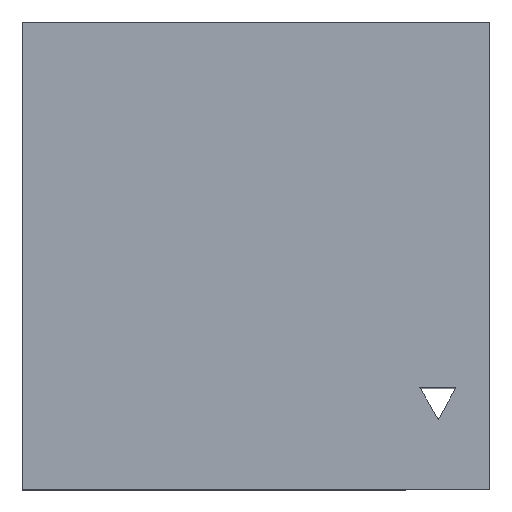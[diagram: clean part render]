
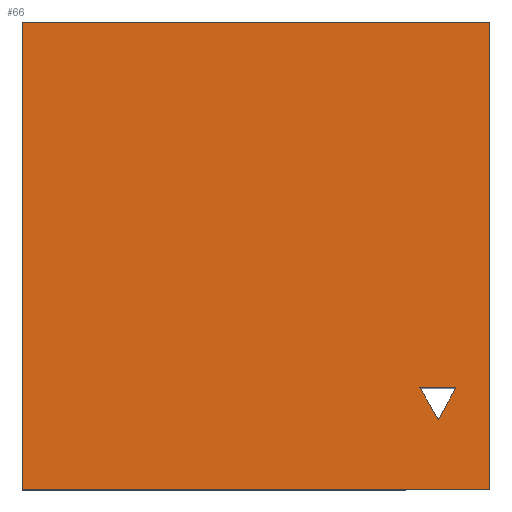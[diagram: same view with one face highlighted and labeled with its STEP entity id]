
A CAD part, top view. The second image highlights one B-rep face of the part: STEP entity #66.
In plain terms, the highlighted planar face has unit normal (0, 0, 1).
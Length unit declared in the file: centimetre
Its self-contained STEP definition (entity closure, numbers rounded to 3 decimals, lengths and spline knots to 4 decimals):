
#16 = EDGE_CURVE ( 'NONE', #1263, #1195, #1202, .T. ) ;
#28 = VECTOR ( 'NONE', #970, 100. ) ;
#66 = ADVANCED_FACE ( 'NONE', ( #1331, #603 ), #372, .T. ) ;
#71 = VERTEX_POINT ( 'NONE', #851 ) ;
#76 = DIRECTION ( 'NONE',  ( 0., -1., 0. ) ) ;
#95 = VERTEX_POINT ( 'NONE', #497 ) ;
#128 = DIRECTION ( 'NONE',  ( 0., 0., 1. ) ) ;
#133 = EDGE_CURVE ( 'NONE', #532, #95, #750, .T. ) ;
#158 = EDGE_LOOP ( 'NONE', ( #277, #1491, #242, #1412 ) ) ;
#171 = ORIENTED_EDGE ( 'NONE', *, *, #596, .F. ) ;
#224 = LINE ( 'NONE', #347, #449 ) ;
#242 = ORIENTED_EDGE ( 'NONE', *, *, #250, .T. ) ;
#246 = DIRECTION ( 'NONE',  ( 0.488, 0.873, 0. ) ) ;
#250 = EDGE_CURVE ( 'NONE', #95, #1263, #1457, .T. ) ;
#277 = ORIENTED_EDGE ( 'NONE', *, *, #1020, .T. ) ;
#307 = CARTESIAN_POINT ( 'NONE',  ( 850.8045, 216.8998, 1000. ) ) ;
#347 = CARTESIAN_POINT ( 'NONE',  ( 850.8045, 216.8998, 1000. ) ) ;
#372 = PLANE ( 'NONE',  #709 ) ;
#414 = CARTESIAN_POINT ( 'NONE',  ( 890.2816, 149.5787, 1000. ) ) ;
#447 = CARTESIAN_POINT ( 'NONE',  ( 0., 0., 1000. ) ) ;
#449 = VECTOR ( 'NONE', #473, 100. ) ;
#471 = DIRECTION ( 'NONE',  ( -1., 0., 0. ) ) ;
#473 = DIRECTION ( 'NONE',  ( 0.506, -0.863, 0. ) ) ;
#476 = DIRECTION ( 'NONE',  ( 1., 0., 0. ) ) ;
#497 = CARTESIAN_POINT ( 'NONE',  ( 1000., 0., 1000. ) ) ;
#532 = VERTEX_POINT ( 'NONE', #447 ) ;
#596 = EDGE_CURVE ( 'NONE', #1104, #1242, #224, .T. ) ;
#597 = CARTESIAN_POINT ( 'NONE',  ( 0., 1000., 1000. ) ) ;
#603 = FACE_OUTER_BOUND ( 'NONE', #158, .T. ) ;
#611 = CARTESIAN_POINT ( 'NONE',  ( 0., 0., 1000. ) ) ;
#644 = EDGE_CURVE ( 'NONE', #1242, #71, #883, .T. ) ;
#665 = VECTOR ( 'NONE', #1557, 100. ) ;
#709 = AXIS2_PLACEMENT_3D ( 'NONE', #611, #128, #476 ) ;
#717 = CARTESIAN_POINT ( 'NONE',  ( 927.9308, 216.8998, 1000. ) ) ;
#750 = LINE ( 'NONE', #1232, #28 ) ;
#776 = ORIENTED_EDGE ( 'NONE', *, *, #644, .F. ) ;
#782 = CARTESIAN_POINT ( 'NONE',  ( 1000., 1000., 1000. ) ) ;
#851 = CARTESIAN_POINT ( 'NONE',  ( 927.9308, 216.8998, 1000. ) ) ;
#883 = LINE ( 'NONE', #967, #1472 ) ;
#967 = CARTESIAN_POINT ( 'NONE',  ( 890.2816, 149.5787, 1000. ) ) ;
#970 = DIRECTION ( 'NONE',  ( 1., 0., 0. ) ) ;
#1020 = EDGE_CURVE ( 'NONE', #1195, #532, #1166, .T. ) ;
#1038 = VECTOR ( 'NONE', #1339, 100. ) ;
#1104 = VERTEX_POINT ( 'NONE', #307 ) ;
#1166 = LINE ( 'NONE', #1262, #1332 ) ;
#1195 = VERTEX_POINT ( 'NONE', #597 ) ;
#1202 = LINE ( 'NONE', #1223, #665 ) ;
#1223 = CARTESIAN_POINT ( 'NONE',  ( 0., 1000., 1000. ) ) ;
#1232 = CARTESIAN_POINT ( 'NONE',  ( 0., 0., 1000. ) ) ;
#1242 = VERTEX_POINT ( 'NONE', #414 ) ;
#1262 = CARTESIAN_POINT ( 'NONE',  ( 0., 1000., 1000. ) ) ;
#1263 = VERTEX_POINT ( 'NONE', #782 ) ;
#1311 = VECTOR ( 'NONE', #471, 100. ) ;
#1326 = CARTESIAN_POINT ( 'NONE',  ( 1000., 1000., 1000. ) ) ;
#1331 = FACE_BOUND ( 'NONE', #1360, .T. ) ;
#1332 = VECTOR ( 'NONE', #76, 100. ) ;
#1339 = DIRECTION ( 'NONE',  ( 0., 1., 0. ) ) ;
#1351 = ORIENTED_EDGE ( 'NONE', *, *, #1555, .F. ) ;
#1360 = EDGE_LOOP ( 'NONE', ( #776, #171, #1351 ) ) ;
#1410 = LINE ( 'NONE', #717, #1311 ) ;
#1412 = ORIENTED_EDGE ( 'NONE', *, *, #16, .T. ) ;
#1457 = LINE ( 'NONE', #1326, #1038 ) ;
#1472 = VECTOR ( 'NONE', #246, 100. ) ;
#1491 = ORIENTED_EDGE ( 'NONE', *, *, #133, .T. ) ;
#1555 = EDGE_CURVE ( 'NONE', #71, #1104, #1410, .T. ) ;
#1557 = DIRECTION ( 'NONE',  ( -1., 0., 0. ) ) ;
